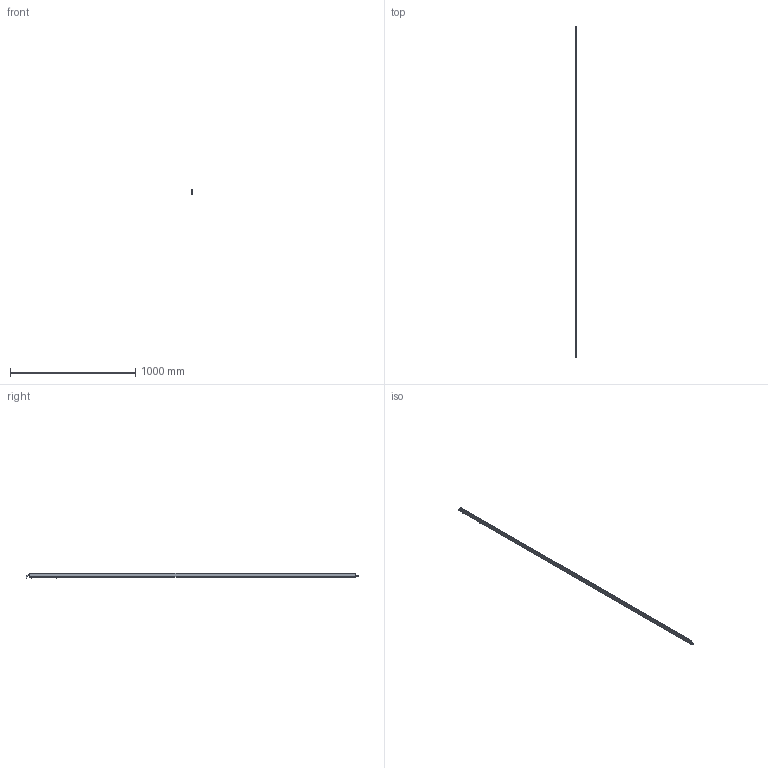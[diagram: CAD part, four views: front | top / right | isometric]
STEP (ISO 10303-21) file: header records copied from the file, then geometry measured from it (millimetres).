
FILE_DESCRIPTION (( 'STEP AP214' ), '1' );
FILE_NAME ('ILG-B-K1-2600mm.STEP', '2017-07-10T12:26:50', ( '' ), ( '' ), 'SwSTEP 2.0', 'SolidWorks 2016', '' );
FILE_SCHEMA (( 'AUTOMOTIVE_DESIGN' ));
Length unit declared in the file: millimetre
Products named in the file (1): ILG-B-K1-2600mm
Bounding box: 9 x 2648.25 x 46.21 mm (x, y, z)
Volume: 290024.5 mm3; surface area: 428532.6 mm2
Topology: 11 solids, 11 shells, 453 faces, 1150 edges, 724 vertices
Faces by surface type: plane 216, cylinder 152, cone 73, torus 12
Entity records: 18769 total; most frequent: CARTESIAN_POINT 2540, DIRECTION 2424, ORIENTED_EDGE 2284, EDGE_CURVE 1142, AXIS2_PLACEMENT_3D 896, VERTEX_POINT 724, LINE 632, VECTOR 632
